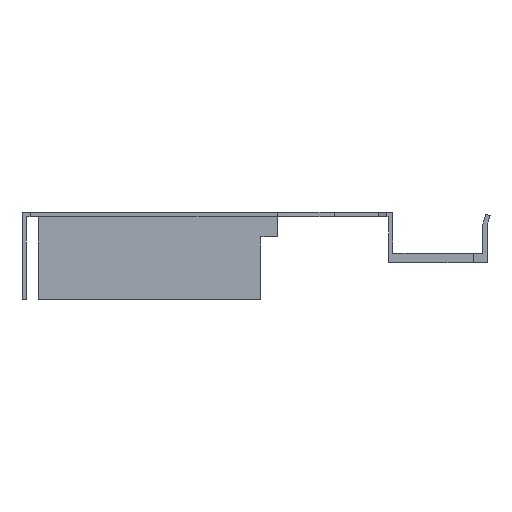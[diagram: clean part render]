
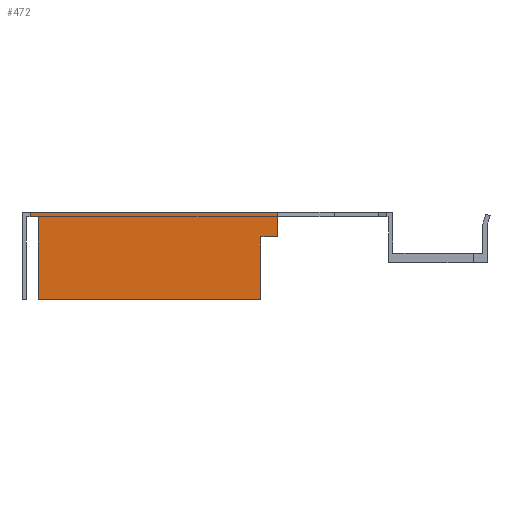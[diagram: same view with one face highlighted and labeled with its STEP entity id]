
A CAD part, left-side view. The second image highlights one B-rep face of the part: STEP entity #472.
In plain terms, the highlighted planar face has unit normal (-1, 0, 0).
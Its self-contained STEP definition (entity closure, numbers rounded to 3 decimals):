
#15 = CARTESIAN_POINT ( 'NONE',  ( -763., 24.2, 3. ) ) ;
#16 = DIRECTION ( 'NONE',  ( 0., -1., 0. ) ) ;
#17 = CARTESIAN_POINT ( 'NONE',  ( -763., 65., 7.5 ) ) ;
#19 = CARTESIAN_POINT ( 'NONE',  ( -763., 21.2, 0. ) ) ;
#20 = DIRECTION ( 'NONE',  ( 0., 0., -1. ) ) ;
#24 = DIRECTION ( 'NONE',  ( 0., 0., -1. ) ) ;
#25 = CARTESIAN_POINT ( 'NONE',  ( -763., 66.5, 6.7 ) ) ;
#26 = DIRECTION ( 'NONE',  ( 0., 0., 1. ) ) ;
#29 = CARTESIAN_POINT ( 'NONE',  ( -763., 65., -8.5 ) ) ;
#34 = DIRECTION ( 'NONE',  ( 0., -1., 0. ) ) ;
#63 = CARTESIAN_POINT ( 'NONE',  ( -763., 24.2, -8.5 ) ) ;
#64 = DIRECTION ( 'NONE',  ( 0., 0., 1. ) ) ;
#124 = CARTESIAN_POINT ( 'NONE',  ( -763., 0.8, 6.7 ) ) ;
#125 = DIRECTION ( 'NONE',  ( 0., 1., 0. ) ) ;
#162 = CARTESIAN_POINT ( 'NONE',  ( -763., 0., 7.5 ) ) ;
#163 = DIRECTION ( 'NONE',  ( 0., -1., 0. ) ) ;
#209 = CARTESIAN_POINT ( 'NONE',  ( -763., 21.2, 3. ) ) ;
#222 = CARTESIAN_POINT ( 'NONE',  ( -763., 66.5, 6.7 ) ) ;
#223 = CARTESIAN_POINT ( 'NONE',  ( -763., 24.2, -8.5 ) ) ;
#243 = CARTESIAN_POINT ( 'NONE',  ( -763., 24.2, 3. ) ) ;
#246 = CARTESIAN_POINT ( 'NONE',  ( -763., 66.5, 7.5 ) ) ;
#255 = CARTESIAN_POINT ( 'NONE',  ( -763., 21.2, 7.5 ) ) ;
#275 = CARTESIAN_POINT ( 'NONE',  ( -763., 65., 6.7 ) ) ;
#279 = CARTESIAN_POINT ( 'NONE',  ( -763., 65., -8.5 ) ) ;
#330 = ORIENTED_EDGE ( 'NONE', *, *, #646, .F. ) ;
#331 = ORIENTED_EDGE ( 'NONE', *, *, #694, .F. ) ;
#332 = ORIENTED_EDGE ( 'NONE', *, *, #643, .T. ) ;
#333 = ORIENTED_EDGE ( 'NONE', *, *, #650, .T. ) ;
#334 = ORIENTED_EDGE ( 'NONE', *, *, #664, .T. ) ;
#335 = ORIENTED_EDGE ( 'NONE', *, *, #641, .T. ) ;
#336 = ORIENTED_EDGE ( 'NONE', *, *, #645, .F. ) ;
#337 = ORIENTED_EDGE ( 'NONE', *, *, #713, .F. ) ;
#472 = ADVANCED_FACE ( 'NONE', ( #1077 ), #1398, .T. ) ;
#641 = EDGE_CURVE ( 'NONE', #1452, #1418, #1279, .T. ) ;
#643 = EDGE_CURVE ( 'NONE', #1484, #1488, #1276, .T. ) ;
#645 = EDGE_CURVE ( 'NONE', #1464, #1418, #1278, .T. ) ;
#646 = EDGE_CURVE ( 'NONE', #1431, #1455, #1288, .T. ) ;
#650 = EDGE_CURVE ( 'NONE', #1488, #1432, #1287, .T. ) ;
#664 = EDGE_CURVE ( 'NONE', #1432, #1452, #882, .T. ) ;
#694 = EDGE_CURVE ( 'NONE', #1484, #1431, #807, .T. ) ;
#713 = EDGE_CURVE ( 'NONE', #1455, #1464, #1297, .T. ) ;
#730 = AXIS2_PLACEMENT_3D ( 'NONE', #1496, #1390, #1389 ) ;
#806 = VECTOR ( 'NONE', #125, 1000. ) ;
#807 = LINE ( 'NONE', #124, #806 ) ;
#881 = VECTOR ( 'NONE', #64, 1000. ) ;
#882 = LINE ( 'NONE', #63, #881 ) ;
#1077 = FACE_OUTER_BOUND ( 'NONE', #1126, .T. ) ;
#1126 = EDGE_LOOP ( 'NONE', ( #330, #331, #332, #333, #334, #335, #336, #337 ) ) ;
#1168 = VECTOR ( 'NONE', #34, 1000. ) ;
#1273 = VECTOR ( 'NONE', #16, 1000. ) ;
#1276 = LINE ( 'NONE', #17, #1282 ) ;
#1278 = LINE ( 'NONE', #19, #1286 ) ;
#1279 = LINE ( 'NONE', #15, #1273 ) ;
#1282 = VECTOR ( 'NONE', #20, 1000. ) ;
#1286 = VECTOR ( 'NONE', #24, 1000. ) ;
#1287 = LINE ( 'NONE', #29, #1168 ) ;
#1288 = LINE ( 'NONE', #25, #1289 ) ;
#1289 = VECTOR ( 'NONE', #26, 1000. ) ;
#1297 = LINE ( 'NONE', #162, #1298 ) ;
#1298 = VECTOR ( 'NONE', #163, 1000. ) ;
#1389 = DIRECTION ( 'NONE',  ( 0., 0., 1. ) ) ;
#1390 = DIRECTION ( 'NONE',  ( -1., 0., 0. ) ) ;
#1398 = PLANE ( 'NONE',  #730 ) ;
#1418 = VERTEX_POINT ( 'NONE', #209 ) ;
#1431 = VERTEX_POINT ( 'NONE', #222 ) ;
#1432 = VERTEX_POINT ( 'NONE', #223 ) ;
#1452 = VERTEX_POINT ( 'NONE', #243 ) ;
#1455 = VERTEX_POINT ( 'NONE', #246 ) ;
#1464 = VERTEX_POINT ( 'NONE', #255 ) ;
#1484 = VERTEX_POINT ( 'NONE', #275 ) ;
#1488 = VERTEX_POINT ( 'NONE', #279 ) ;
#1496 = CARTESIAN_POINT ( 'NONE',  ( -763., -16.5, 0. ) ) ;
